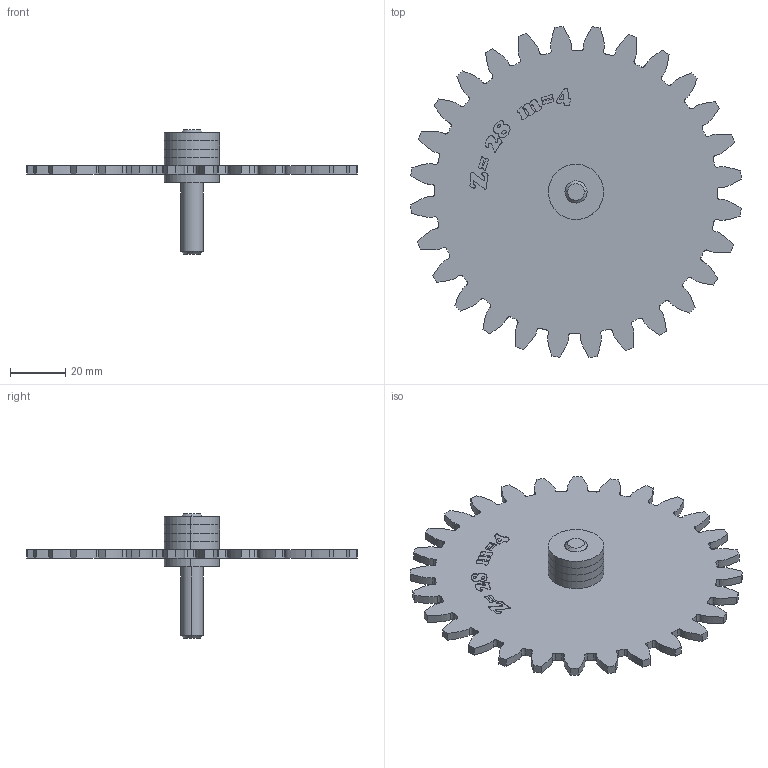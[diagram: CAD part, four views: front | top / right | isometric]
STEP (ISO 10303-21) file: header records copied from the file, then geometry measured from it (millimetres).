
FILE_DESCRIPTION (( 'STEP AP203' ), '1' );
FILE_NAME ('Engrenage m4 Z28 avec axe.STEP', '2025-09-18T11:50:30', ( '' ), ( '' ), 'SwSTEP 2.0', 'SolidWorks 2019', '' );
FILE_SCHEMA (( 'CONFIG_CONTROL_DESIGN' ));
Length unit declared in the file: millimetre
Products named in the file (4): Engrenage m4 Z28 avec axe; Axe pignon L45; Pignon denture droite m=4 Z=28; Support pignon bouton
Assembly tree (7 placements, depth 2):
  Engrenage m4 Z28 avec axe
    Axe pignon L45
    Support pignon bouton  x5
    Pignon denture droite m=4 Z=28
Bounding box: 119.63 x 119.63 x 45 mm (x, y, z)
Volume: 35160 mm3; surface area: 26727 mm2
Topology: 7 solids, 7 shells, 457 faces, 1289 edges, 858 vertices
Faces by surface type: bspline 250, cylinder 150, plane 53, cone 4
Entity records: 20677 total; most frequent: CARTESIAN_POINT 10272, ORIENTED_EDGE 2482, DIRECTION 1399, EDGE_CURVE 1241, VERTEX_POINT 826, B_SPLINE_CURVE_WITH_KNOTS 500, VECTOR 469, LINE 469
